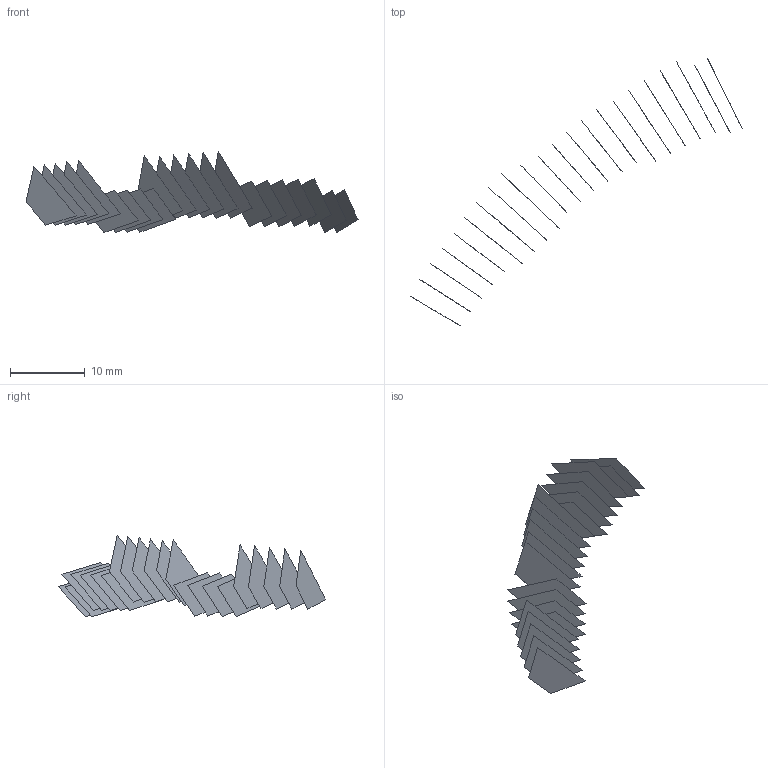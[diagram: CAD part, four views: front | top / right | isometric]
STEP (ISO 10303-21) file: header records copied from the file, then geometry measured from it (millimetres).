
FILE_DESCRIPTION(('FreeCAD Model'),'2;1');
FILE_NAME('Open CASCADE Shape Model','2022-05-21T09:28:01',('FreeCAD'),( 'FreeCAD'),'Open CASCADE STEP processor 7.5','FreeCAD','Unknown');
FILE_SCHEMA(('AUTOMOTIVE_DESIGN { 1 0 10303 214 1 1 1 1 }'));
Length unit declared in the file: millimetre
Products named in the file (23): Open CASCADE STEP translator 7.5 4; Open CASCADE STEP translator 7.5 4.1; Open CASCADE STEP translator 7.5 4.2; Open CASCADE STEP translator 7.5 4.3; Open CASCADE STEP translator 7.5 4.4; Open CASCADE STEP translator 7.5 4.5; Open CASCADE STEP translator 7.5 4.6; Open CASCADE STEP translator 7.5 4.7; Open CASCADE STEP translator 7.5 4.8; Open CASCADE STEP translator 7.5 4.9; Open CASCADE STEP translator 7.5 4.10; Open CASCADE STEP translator 7.5 4.11; Open CASCADE STEP translator 7.5 4.12; Open CASCADE STEP translator 7.5 4.13; Open CASCADE STEP translator 7.5 4.14; Open CASCADE STEP translator 7.5 4.15; Open CASCADE STEP translator 7.5 4.16; Open CASCADE STEP translator 7.5 4.17; Open CASCADE STEP translator 7.5 4.18; Open CASCADE STEP translator 7.5 4.19; Open CASCADE STEP translator 7.5 4.20; Open CASCADE STEP translator 7.5 4.21; Open CASCADE STEP translator 7.5 4.22
Assembly tree (22 placements, depth 2):
  Open CASCADE STEP translator 7.5 4
    Open CASCADE STEP translator 7.5 4.1
    Open CASCADE STEP translator 7.5 4.2
    Open CASCADE STEP translator 7.5 4.3
    Open CASCADE STEP translator 7.5 4.4
    Open CASCADE STEP translator 7.5 4.5
    Open CASCADE STEP translator 7.5 4.6
    Open CASCADE STEP translator 7.5 4.7
    Open CASCADE STEP translator 7.5 4.8
    Open CASCADE STEP translator 7.5 4.9
    Open CASCADE STEP translator 7.5 4.10
    Open CASCADE STEP translator 7.5 4.11
    Open CASCADE STEP translator 7.5 4.12
    Open CASCADE STEP translator 7.5 4.13
    Open CASCADE STEP translator 7.5 4.14
    Open CASCADE STEP translator 7.5 4.15
    Open CASCADE STEP translator 7.5 4.16
    Open CASCADE STEP translator 7.5 4.17
    Open CASCADE STEP translator 7.5 4.18
    Open CASCADE STEP translator 7.5 4.19
    Open CASCADE STEP translator 7.5 4.20
    Open CASCADE STEP translator 7.5 4.21
    Open CASCADE STEP translator 7.5 4.22
Bounding box: 44.34 x 35.74 x 10.92 mm (x, y, z)
Surface area: 720.1 mm2 (no closed solid volume)
Topology: 0 solids, 22 shells, 22 faces, 308 edges, 308 vertices
Faces by surface type: bspline 22
Entity records: 4636 total; most frequent: CARTESIAN_POINT 1651, B_SPLINE_CURVE_WITH_KNOTS 616, ORIENTED_EDGE 308, EDGE_CURVE 308, VERTEX_POINT 308, SURFACE_CURVE 308, PCURVE 308, DEFINITIONAL_REPRESENTATION 308
